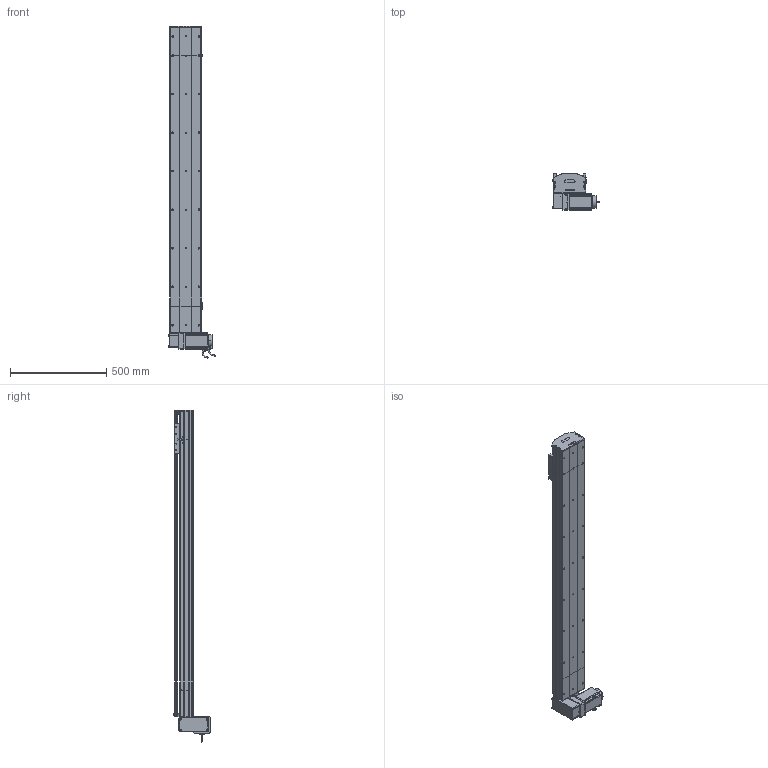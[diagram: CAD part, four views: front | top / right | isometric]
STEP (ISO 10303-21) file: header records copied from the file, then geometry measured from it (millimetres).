
FILE_DESCRIPTION (( 'STEP AP214' ), '1' );
FILE_NAME ('D17 TBH RU S1300.STEP', '2010-06-30T08:00:36', ( 'Christophe Gaillard' ), ( 'SGA' ), 'SwSTEP 2.0', 'SolidWorks 2010', '' );
FILE_SCHEMA (( 'AUTOMOTIVE_DESIGN' ));
Length unit declared in the file: millimetre
Products named in the file (40): Vis M5 L16-2_Default; vis M5 L12_Default; guide D17; Renvoi RU_Default; cache arbre D17_Default; corp tail D17B+100_Default; Tail D17B+100_Default; tete d''axe poulie D17B; vis M5 L8 90°_Default; couvercle D17B_Default; Chariot D17; chariot D17S_Default; vis M5 L25_Default; Rail D17B; Couroie tail D17B_Default; poulie tail_Default; plaque de  bout tail D17B_Default; D17 TBH RU S1300; course 1300 D17B_Default; vis M5 L16_Default; corp D17B 1300_Default; Couroie+ rail D17 Course 1300 ; couvercle D17B course L1300_Default; Conecteur_Default; Conecteur2_Default; Plaque racord D17_Default; vis M5 L70_Default; Head RU D17B_Default; codeur 90BLDC125-640; corps 90BLDC125A-640; corpl head D17 _Default; couroie head D17_Default; plaque de  bout head D17B RU_Default; couvercle D17B head_Default; avant 90BLDC125A-640; Moteur motionking 90BLDC125A-640; Arbre+rail head D17B; poulie head_Default; vis M5 L5_Default; cache D17_Default
Assembly tree (70 placements, depth 4):
  D17 TBH RU S1300
    chariot D17S_Default
      vis M5 L12_Default  x4
      guide D17  x2
      Chariot D17
    Head RU D17B_Default
      Vis M5 L16-2_Default  x4
      Plaque racord D17_Default
      vis M5 L70_Default  x4
      vis M5 L12_Default  x8
      cache D17_Default  x2
      couroie head D17_Default
      corpl head D17 _Default
      vis M5 L25_Default  x2
      cache arbre D17_Default
      vis M5 L16_Default  x2
      vis M5 L5_Default  x4
      poulie head_Default
      Arbre+rail head D17B
      Renvoi RU_Default
      Moteur motionking 90BLDC125A-640
        avant 90BLDC125A-640
        Conecteur_Default
        codeur 90BLDC125-640
        corps 90BLDC125A-640
        Conecteur2_Default
      couvercle D17B head_Default
      plaque de  bout head D17B RU_Default
    course 1300 D17B_Default
      couvercle D17B course L1300_Default
      corp D17B 1300_Default
      Couroie+ rail D17 Course 1300 
    Tail D17B+100_Default
      Rail D17B
      vis M5 L8 90°_Default  x2
      vis M5 L12_Default  x4
      vis M5 L25_Default  x2
      Couroie tail D17B_Default
      corp tail D17B+100_Default
      couvercle D17B_Default
      plaque de  bout tail D17B_Default
      tete d''axe poulie D17B
      poulie tail_Default
Bounding box: 245.2 x 188.65 x 1723.95 mm (x, y, z)
Volume: 10698340.2 mm3; surface area: 3015289 mm2
Topology: 94 solids, 94 shells, 2681 faces, 6751 edges, 4346 vertices
Faces by surface type: plane 1611, cylinder 757, bspline 136, cone 88, torus 85, sphere 4
Entity records: 83962 total; most frequent: CARTESIAN_POINT 24835, ORIENTED_EDGE 10274, DIRECTION 9750, EDGE_CURVE 5137, LINE 3440, VECTOR 3440, VERTEX_POINT 3370, AXIS2_PLACEMENT_3D 3155
